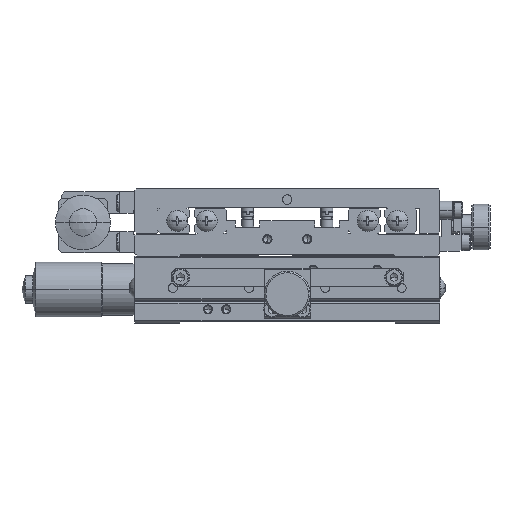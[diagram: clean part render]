
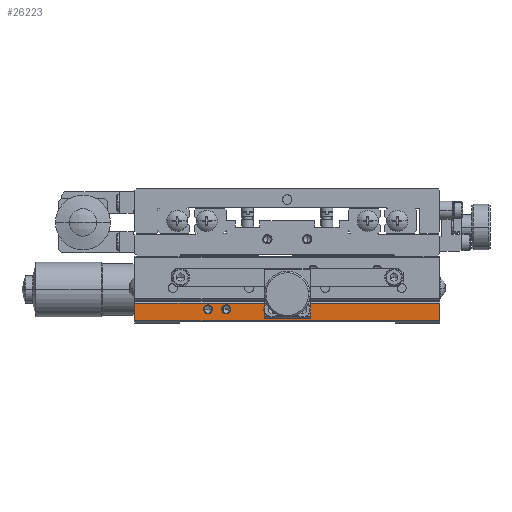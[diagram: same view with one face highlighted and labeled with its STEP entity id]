
A CAD part, left-side view. The second image highlights one B-rep face of the part: STEP entity #26223.
In plain terms, the highlighted planar face has unit normal (-1, 0, 0).
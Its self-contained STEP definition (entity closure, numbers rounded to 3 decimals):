
#24631 = VERTEX_POINT ( 'NONE', #53014 ) ;
#24770 = VERTEX_POINT ( 'NONE', #53179 ) ;
#24774 = EDGE_CURVE ( 'NONE', #24770, #24631, #53178, .T. ) ;
#24834 = VERTEX_POINT ( 'NONE', #53246 ) ;
#24836 = EDGE_CURVE ( 'NONE', #24834, #24838, #53244, .T. ) ;
#24838 = VERTEX_POINT ( 'NONE', #53239 ) ;
#25582 = VERTEX_POINT ( 'NONE', #54080 ) ;
#25587 = EDGE_CURVE ( 'NONE', #25582, #25588, #54079, .T. ) ;
#25588 = VERTEX_POINT ( 'NONE', #54075 ) ;
#25851 = VERTEX_POINT ( 'NONE', #54400 ) ;
#25855 = EDGE_CURVE ( 'NONE', #25857, #25851, #54399, .T. ) ;
#25857 = VERTEX_POINT ( 'NONE', #54395 ) ;
#26198 = EDGE_CURVE ( 'NONE', #26242, #25588, #54685, .T. ) ;
#26199 = ORIENTED_EDGE ( 'NONE', *, *, #25587, .F. ) ;
#26200 = ORIENTED_EDGE ( 'NONE', *, *, #26216, .F. ) ;
#26201 = ORIENTED_EDGE ( 'NONE', *, *, #25855, .T. ) ;
#26203 = ORIENTED_EDGE ( 'NONE', *, *, #26205, .T. ) ;
#26205 = EDGE_CURVE ( 'NONE', #25851, #26233, #54680, .T. ) ;
#26208 = EDGE_LOOP ( 'NONE', ( #26209, #26211 ) ) ;
#26209 = ORIENTED_EDGE ( 'NONE', *, *, #26210, .F. ) ;
#26210 = EDGE_CURVE ( 'NONE', #24631, #24770, #54676, .T. ) ;
#26211 = ORIENTED_EDGE ( 'NONE', *, *, #24774, .F. ) ;
#26214 = EDGE_LOOP ( 'NONE', ( #26321, #26323 ) ) ;
#26216 = EDGE_CURVE ( 'NONE', #25857, #25582, #54736, .T. ) ;
#26223 = ADVANCED_FACE ( 'NONE', ( #54732, #54731, #54730 ), #54729, .T. ) ;
#26224 = EDGE_LOOP ( 'NONE', ( #26226, #26235, #26239, #26339, #26199, #26200, #26201, #26203 ) ) ;
#26226 = ORIENTED_EDGE ( 'NONE', *, *, #26228, .F. ) ;
#26228 = EDGE_CURVE ( 'NONE', #26230, #26233, #54727, .T. ) ;
#26230 = VERTEX_POINT ( 'NONE', #54720 ) ;
#26233 = VERTEX_POINT ( 'NONE', #54719 ) ;
#26235 = ORIENTED_EDGE ( 'NONE', *, *, #26237, .F. ) ;
#26237 = EDGE_CURVE ( 'NONE', #26238, #26230, #54718, .T. ) ;
#26238 = VERTEX_POINT ( 'NONE', #54714 ) ;
#26239 = ORIENTED_EDGE ( 'NONE', *, *, #26240, .T. ) ;
#26240 = EDGE_CURVE ( 'NONE', #26238, #26242, #54713, .T. ) ;
#26242 = VERTEX_POINT ( 'NONE', #54709 ) ;
#26321 = ORIENTED_EDGE ( 'NONE', *, *, #26322, .F. ) ;
#26322 = EDGE_CURVE ( 'NONE', #24838, #24834, #54838, .T. ) ;
#26323 = ORIENTED_EDGE ( 'NONE', *, *, #24836, .F. ) ;
#26339 = ORIENTED_EDGE ( 'NONE', *, *, #26198, .T. ) ;
#53014 = CARTESIAN_POINT ( 'NONE',  ( -50., 18.5, 4.5 ) ) ;
#53173 = DIRECTION ( 'NONE',  ( 0., -1., 0. ) ) ;
#53175 = DIRECTION ( 'NONE',  ( -1., 0., 0. ) ) ;
#53176 = CARTESIAN_POINT ( 'NONE',  ( -50., 20., 4.5 ) ) ;
#53177 = AXIS2_PLACEMENT_3D ( 'NONE', #53176, #53175, #53173 ) ;
#53178 = CIRCLE ( 'NONE', #53177, 1.5 ) ;
#53179 = CARTESIAN_POINT ( 'NONE',  ( -50., 21.5, 4.5 ) ) ;
#53239 = CARTESIAN_POINT ( 'NONE',  ( -50., 24.5, 4.5 ) ) ;
#53240 = DIRECTION ( 'NONE',  ( 0., -1., 0. ) ) ;
#53241 = DIRECTION ( 'NONE',  ( -1., 0., 0. ) ) ;
#53242 = CARTESIAN_POINT ( 'NONE',  ( -50., 26., 4.5 ) ) ;
#53243 = AXIS2_PLACEMENT_3D ( 'NONE', #53242, #53241, #53240 ) ;
#53244 = CIRCLE ( 'NONE', #53243, 1.5 ) ;
#53246 = CARTESIAN_POINT ( 'NONE',  ( -50., 27.5, 4.5 ) ) ;
#54075 = CARTESIAN_POINT ( 'NONE',  ( -50., 50., 6.5 ) ) ;
#54076 = DIRECTION ( 'NONE',  ( 0., 0., 1. ) ) ;
#54077 = VECTOR ( 'NONE', #54076, 1000. ) ;
#54078 = CARTESIAN_POINT ( 'NONE',  ( -50., 50., 0.8 ) ) ;
#54079 = LINE ( 'NONE', #54078, #54077 ) ;
#54080 = CARTESIAN_POINT ( 'NONE',  ( -50., 50., 0.8 ) ) ;
#54395 = CARTESIAN_POINT ( 'NONE',  ( -50., -50., 0.8 ) ) ;
#54396 = DIRECTION ( 'NONE',  ( 0., 0., 1. ) ) ;
#54397 = VECTOR ( 'NONE', #54396, 1000. ) ;
#54398 = CARTESIAN_POINT ( 'NONE',  ( -50., -50., 0.8 ) ) ;
#54399 = LINE ( 'NONE', #54398, #54397 ) ;
#54400 = CARTESIAN_POINT ( 'NONE',  ( -50., -50., 6.5 ) ) ;
#54676 = CIRCLE ( 'NONE', #54740, 1.5 ) ;
#54677 = DIRECTION ( 'NONE',  ( 0., 1., 0. ) ) ;
#54678 = VECTOR ( 'NONE', #54677, 1000. ) ;
#54679 = CARTESIAN_POINT ( 'NONE',  ( -50., -50., 6.5 ) ) ;
#54680 = LINE ( 'NONE', #54679, #54678 ) ;
#54682 = DIRECTION ( 'NONE',  ( 0., 1., 0. ) ) ;
#54683 = VECTOR ( 'NONE', #54682, 1000. ) ;
#54684 = CARTESIAN_POINT ( 'NONE',  ( -50., -50., 6.5 ) ) ;
#54685 = LINE ( 'NONE', #54684, #54683 ) ;
#54709 = CARTESIAN_POINT ( 'NONE',  ( -50., 7.5, 6.5 ) ) ;
#54710 = DIRECTION ( 'NONE',  ( 0., 0., 1. ) ) ;
#54711 = VECTOR ( 'NONE', #54710, 1000. ) ;
#54712 = CARTESIAN_POINT ( 'NONE',  ( -50., 7.5, 1.5 ) ) ;
#54713 = LINE ( 'NONE', #54712, #54711 ) ;
#54714 = CARTESIAN_POINT ( 'NONE',  ( -50., 7.5, 1.5 ) ) ;
#54715 = DIRECTION ( 'NONE',  ( 0., -1., 0. ) ) ;
#54716 = VECTOR ( 'NONE', #54715, 1000. ) ;
#54717 = CARTESIAN_POINT ( 'NONE',  ( -50., 7.5, 1.5 ) ) ;
#54718 = LINE ( 'NONE', #54717, #54716 ) ;
#54719 = CARTESIAN_POINT ( 'NONE',  ( -50., -7.5, 6.5 ) ) ;
#54720 = CARTESIAN_POINT ( 'NONE',  ( -50., -7.5, 1.5 ) ) ;
#54721 = DIRECTION ( 'NONE',  ( 0., 0., 1. ) ) ;
#54722 = VECTOR ( 'NONE', #54721, 1000. ) ;
#54723 = CARTESIAN_POINT ( 'NONE',  ( -50., -7.5, 1.5 ) ) ;
#54724 = DIRECTION ( 'NONE',  ( 0., 1., 0. ) ) ;
#54725 = DIRECTION ( 'NONE',  ( -1., 0., 0. ) ) ;
#54726 = AXIS2_PLACEMENT_3D ( 'NONE', #54728, #54725, #54724 ) ;
#54727 = LINE ( 'NONE', #54723, #54722 ) ;
#54728 = CARTESIAN_POINT ( 'NONE',  ( -50., -50., 0.8 ) ) ;
#54729 = PLANE ( 'NONE',  #54726 ) ;
#54730 = FACE_BOUND ( 'NONE', #26214, .T. ) ;
#54731 = FACE_BOUND ( 'NONE', #26208, .T. ) ;
#54732 = FACE_OUTER_BOUND ( 'NONE', #26224, .T. ) ;
#54733 = DIRECTION ( 'NONE',  ( 0., 1., 0. ) ) ;
#54734 = VECTOR ( 'NONE', #54733, 1000. ) ;
#54735 = CARTESIAN_POINT ( 'NONE',  ( -50., -50., 0.8 ) ) ;
#54736 = LINE ( 'NONE', #54735, #54734 ) ;
#54737 = DIRECTION ( 'NONE',  ( 0., -1., 0. ) ) ;
#54738 = DIRECTION ( 'NONE',  ( -1., 0., 0. ) ) ;
#54739 = CARTESIAN_POINT ( 'NONE',  ( -50., 20., 4.5 ) ) ;
#54740 = AXIS2_PLACEMENT_3D ( 'NONE', #54739, #54738, #54737 ) ;
#54834 = DIRECTION ( 'NONE',  ( 0., -1., 0. ) ) ;
#54835 = DIRECTION ( 'NONE',  ( -1., 0., 0. ) ) ;
#54836 = CARTESIAN_POINT ( 'NONE',  ( -50., 26., 4.5 ) ) ;
#54837 = AXIS2_PLACEMENT_3D ( 'NONE', #54836, #54835, #54834 ) ;
#54838 = CIRCLE ( 'NONE', #54837, 1.5 ) ;
